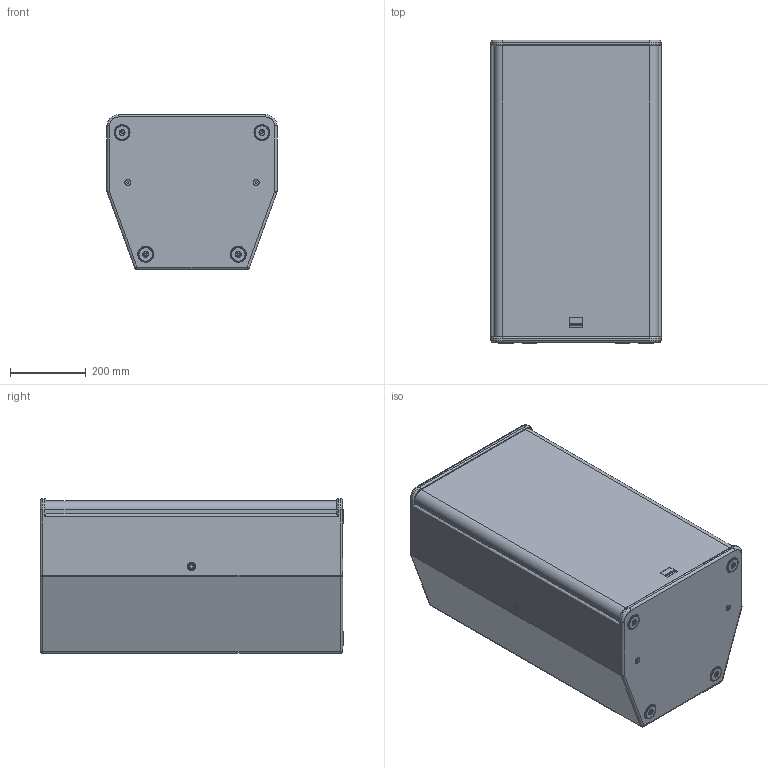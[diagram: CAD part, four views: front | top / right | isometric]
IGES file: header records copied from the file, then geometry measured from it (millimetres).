
Start section: SolidWorks IGES file using analytic representation for surfaces
Global section: file name: C:\Dokumente und Einstellungen\PC_Fabian\Desktop\F-Serie\Seeburg_F8.IGS; native system: SolidWorks 2009; preprocessor: SolidWorks 2009; author: PC_Fabian; date: 121015.144518; units: millimetre
Bounding box: 450 x 803 x 410 mm (x, y, z)
Surface area: 3148914.7 mm2 (no closed solid volume)
Topology: 0 solids, 0 shells, 566 faces, 7240 edges, 7238 vertices
Faces by surface type: revolution 304, bspline 262
